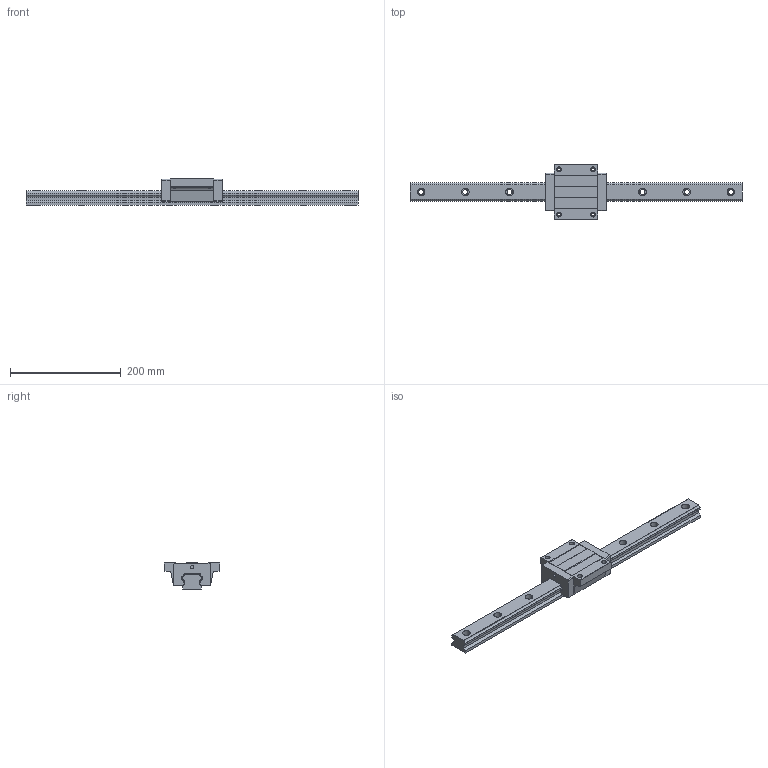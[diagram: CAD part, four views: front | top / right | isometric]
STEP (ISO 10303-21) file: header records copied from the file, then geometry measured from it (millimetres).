
FILE_DESCRIPTION (( 'STEP AP203' ), '1' );
FILE_NAME ('TRH35FN-XN.STEP', '2023-02-01T09:19:12', ( '' ), ( '' ), 'SwSTEP 2.0', 'SolidWorks 2019', '' );
FILE_SCHEMA (( 'CONFIG_CONTROL_DESIGN' ));
Length unit declared in the file: millimetre
Products named in the file (1): TRH35FN-XN
Bounding box: 600 x 100 x 48 mm (x, y, z)
Volume: 713409.1 mm3; surface area: 129875.9 mm2
Topology: 4 solids, 4 shells, 170 faces, 460 edges, 304 vertices
Faces by surface type: plane 96, cylinder 74
Entity records: 5735 total; most frequent: CARTESIAN_POINT 1183, DIRECTION 942, ORIENTED_EDGE 920, EDGE_CURVE 460, AXIS2_PLACEMENT_3D 319, LINE 304, VERTEX_POINT 304, VECTOR 304
